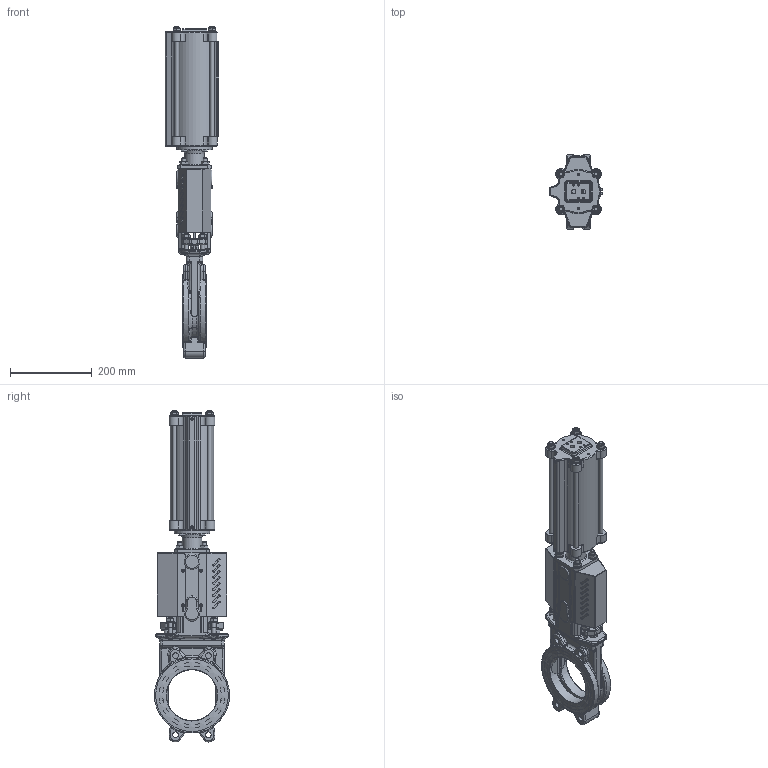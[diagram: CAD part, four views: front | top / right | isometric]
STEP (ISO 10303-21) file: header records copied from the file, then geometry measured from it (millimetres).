
FILE_DESCRIPTION(/* description */ (''),/* implementation_level */ '2;1');
FILE_NAME(/* name */ 'F:\Emir\3D-block special\WB\WB11-DN125-PN10-SC100-165.stp',/* time_stamp */ '2018-01-29T16:36:44+01:00',/* author */ ('emimus'),/* organization */ (''),/* preprocessor_version */ 'ST-DEVELOPER v16.5',/* originating_system */ 'Autodesk Inventor 2017',/* authorisation */ '');
FILE_SCHEMA (('CONFIG_CONTROL_DESIGN'));
Products named in the file (1): WB11-DN125-PN10-SC100-165
Bounding box: 132 x 184 x 814.26 mm (x, y, z)
Volume: 2902759.1 mm3; surface area: 990524 mm2
Topology: 2 solids, 11 shells, 2785 faces, 6798 edges, 4076 vertices
Faces by surface type: plane 944, cylinder 770, bspline 349, torus 301, cone 243, sphere 178
Full cylindrical faces by diameter (mm): 4 x4, 4.134 x4, 4.2 x12, 4.5 x4, 4.917 x4, 5.95 x8, 6 x3, 6.647 x4, 8 x14, 9 x6, 10 x36, 10.106 x1, 10.5 x12, 11 x8, 11.445 x2, 11.63 x4, 14 x7, 15 x3, 20 x13, 20.15 x2, 22 x1, 24 x3, 26 x1, 26.4 x1, 28 x2, 40 x1, 48 x1, 55 x1, 70 x1, 87 x1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
Entity records: 108952 total; most frequent: CARTESIAN_POINT 47229, DIRECTION 12976, ORIENTED_EDGE 12626, EDGE_CURVE 6307, AXIS2_PLACEMENT_3D 5426, VERTEX_POINT 3961, EDGE_LOOP 3346, CIRCLE 2793
